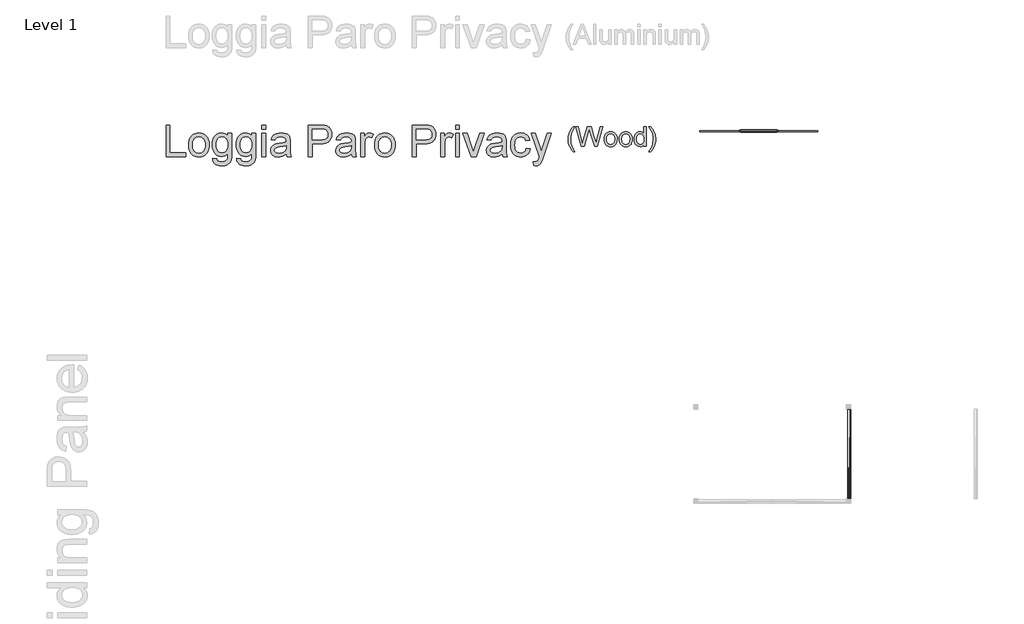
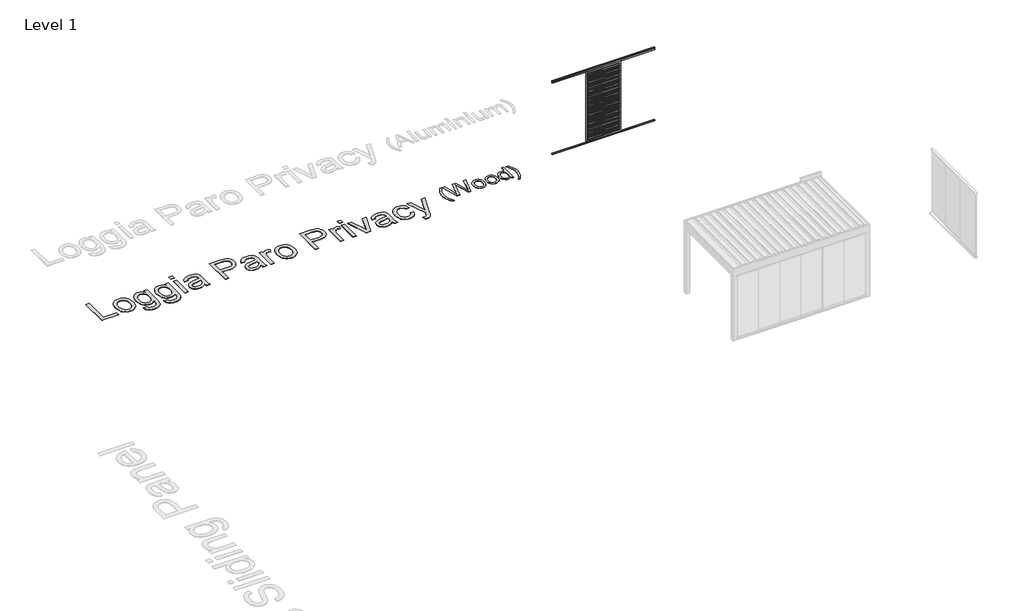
# One storey, part 9 of 47: 3 proxies, 1 wall.
"""IFC4 building model written with IfcOpenShell, lengths in millimetres."""

from ifc_helpers import new_model, si_unit, origin, origin_with_axes, place, context, project, spatial, polyline, outline, extrude, transform, mapped, element, save
from components import generic_models_19c23343, wall_bdcc315b

model = new_model("IFC4")

# Units and contexts
model_context = context("Model", 3, world=origin())
ifc_project = project(units=[si_unit("LENGTHUNIT", "METRE", prefix="MILLI")], contexts=[model_context])

# Site, building, storey
site = spatial("IfcSite", under=ifc_project)
building = spatial("IfcBuilding", under=site)
storey = spatial("IfcBuildingStorey", under=building, Name="Level 1", Elevation=0.0)

# Proxies
placement = place(None, origin())
generic_models_shape = generic_models_19c23343(model_context)
element("IfcBuildingElementProxy", 1, Name="Renson_Algarve_Loggia_Paro_Privacy_Wood : Renson_Algarve_Loggia_Paro_Privacy_Wood", ObjectType="Renson_Algarve_Loggia_Paro_Privacy_Wood : Renson_Algarve_Loggia_Paro_Privacy_Wood", at=placement, inside=storey, context=model_context, shape_type="MappedRepresentation", body=[
    mapped(generic_models_shape, transform((188018.5499001, -32029.7926735, 0.0), x_axis=(1.0, 0.0, 0.0), y_axis=(0.0, 1.0, 0.0), z_axis=(0.0, 0.0, 1.0))),
])
element("IfcBuildingElementProxy", 2, Name="500mm Arial", ObjectType="500mm Arial", at=placement, inside=storey, context=model_context, shape_type="SweptSolid", body=[
    extrude(outline(polyline([(183293.7226745, -32560.1479714), (183268.3771378, -32527.3528244), (183245.0702806, -32491.8752045), (183204.5726043, -32412.872546), (183188.6387154, -32370.3055335), (183177.2573662, -32326.9721002), (183170.4285566, -32282.872246), (183168.1522868, -32238.005971), (183169.853741, -32198.5736196), (183174.9581037, -32159.9843312), (183183.4653748, -32122.2381056), (183195.3755544, -32085.334943), (183213.4784143, -32043.0131851), (183235.9038876, -32000.7833978), (183262.6519743, -31958.6455809), (183293.7226745, -31916.5997345), (183340.8115699, -31916.5997345), (183282.073078, -32016.0505006), (183262.0235092, -32063.2620233), (183246.7564064, -32112.4355833), (183234.8922121, -32175.251434), (183230.9374806, -32238.373853), (183232.6542633, -32278.6224425), (183237.8046112, -32318.8633679), (183246.3885244, -32359.096629), (183258.4060029, -32399.3222259), (183292.7416558, -32479.7504271), (183340.8115699, -32560.1479714), (183293.7226745, -32560.1479714)])), origin_with_axes(), (0.0, 0.0, 1.0), 5.0),
    extrude(outline(polyline([(183501.3307471, -32418.8812853), (183364.3560175, -31916.5997345), (183429.1032487, -31916.5997345), (183508.5657597, -32246.7125115), (183533.091226, -32348.6158242), (183559.333475, -32258.4847354), (183658.9068684, -31916.5997345), (183752.2262678, -31916.5997345), (183824.5763935, -32164.429572), (183855.5704516, -32256.4000708), (183878.4097921, -32348.6158242), (183902.1994945, -32249.6555675), (183982.3977694, -31916.5997345), (184047.1450006, -31916.5997345), (183910.0476437, -32418.8812853), (183842.9704933, -32418.8812853), (183722.5504535, -32031.378917), (183705.7505091, -31977.3002637), (183686.8659, -32042.4153769), (183577.1144381, -32418.8812853), (183501.3307471, -32418.8812853)])), origin_with_axes(), (0.0, 0.0, 1.0), 5.0),
    extrude(outline(polyline([(184086.3857467, -32234.4497784), (184089.780991, -32186.6787685), (184099.9667237, -32145.514306), (184116.942945, -32110.9563911), (184140.7096547, -32083.0050237), (184164.6373128, -32065.1397543), (184191.0481744, -32052.3788476), (184219.9422394, -32044.7223036), (184251.3195079, -32042.1701222), (184285.957897, -32045.2779587), (184317.277684, -32054.601468), (184345.2788687, -32070.1406502), (184369.9614514, -32091.8955052), (184390.1068227, -32119.1302692), (184404.4963737, -32151.109178), (184413.1301042, -32187.8322318), (184416.0080144, -32229.2994304), (184410.9189802, -32292.7284178), (184404.5576873, -32318.7637331), (184395.6518774, -32341.0129296), (184384.3126813, -32360.2309318), (184370.6512301, -32377.1726641), (184354.6675238, -32391.8381265), (184336.3615625, -32404.2273191), (184295.6339599, -32421.1039057), (184251.3195079, -32426.7294345), (184216.1752811, -32423.6330944), (184184.5642542, -32414.344074), (184156.4864273, -32398.8623734), (184131.9418005, -32377.1879925), (184112.011027, -32349.6888134), (184097.7747602, -32316.732718), (184089.2330001, -32278.3197063), (184086.3857467, -32234.4497784)]), holes=[polyline([(184149.1709406, -32234.327151), (184150.9873579, -32264.7808825), (184156.43661, -32291.1495909), (184165.5186968, -32313.4332763), (184178.2336182, -32331.6319388), (184193.6999904, -32345.7685709), (184211.0364294, -32355.8661652), (184230.2429353, -32361.9247218), (184251.3195079, -32363.9442407), (184272.2887816, -32361.9132255), (184291.4186454, -32355.8201799), (184308.7090992, -32345.665104), (184324.160143, -32331.4479978), (184336.8750644, -32313.0692264), (184345.9571512, -32290.4291553), (184351.4064032, -32263.5277844), (184353.2228206, -32232.3651137), (184351.3949069, -32202.8770726), (184345.9111659, -32177.1981429), (184336.7715976, -32155.3283247), (184323.976202, -32137.267618), (184308.4676766, -32123.1309859), (184291.1887191, -32113.0333915), (184272.1393296, -32106.9748349), (184251.3195079, -32104.9553161), (184230.2429353, -32106.9671707), (184211.0364294, -32113.0027347), (184193.6999904, -32123.062008), (184178.2336182, -32137.1449906), (184165.5186968, -32155.2900036), (184156.43661, -32177.535368), (184150.9873579, -32203.8810838), (184149.1709406, -32234.327151)])]), origin_with_axes(), (0.0, 0.0, 1.0), 5.0),
    extrude(outline(polyline([(184470.945059, -32234.4497784), (184474.3403033, -32186.6787685), (184484.526036, -32145.514306), (184501.5022573, -32110.9563911), (184525.268967, -32083.0050237), (184549.1966251, -32065.1397543), (184575.6074867, -32052.3788476), (184604.5015517, -32044.7223036), (184635.8788202, -32042.1701222), (184670.5172093, -32045.2779587), (184701.8369963, -32054.601468), (184729.838181, -32070.1406502), (184754.5207637, -32091.8955052), (184774.666135, -32119.1302692), (184789.055686, -32151.109178), (184797.6894165, -32187.8322318), (184800.5673267, -32229.2994304), (184795.4782925, -32292.7284178), (184789.1169996, -32318.7637331), (184780.2111897, -32341.0129296), (184768.8719936, -32360.2309318), (184755.2105424, -32377.1726641), (184739.2268361, -32391.8381265), (184720.9208748, -32404.2273191), (184680.1932722, -32421.1039057), (184635.8788202, -32426.7294345), (184600.7345934, -32423.6330944), (184569.1235665, -32414.344074), (184541.0457396, -32398.8623734), (184516.5011128, -32377.1879925), (184496.5703393, -32349.6888134), (184482.3340725, -32316.732718), (184473.7923124, -32278.3197063), (184470.945059, -32234.4497784)]), holes=[polyline([(184533.7302529, -32234.327151), (184535.5466702, -32264.7808825), (184540.9959223, -32291.1495909), (184550.078009, -32313.4332763), (184562.7929305, -32331.6319388), (184578.2593027, -32345.7685709), (184595.5957417, -32355.8661652), (184614.8022476, -32361.9247218), (184635.8788202, -32363.9442407), (184656.8480939, -32361.9132255), (184675.9779577, -32355.8201799), (184693.2684115, -32345.665104), (184708.7194553, -32331.4479978), (184721.4343767, -32313.0692264), (184730.5164635, -32290.4291553), (184735.9657155, -32263.5277844), (184737.7821329, -32232.3651137), (184735.9542192, -32202.8770726), (184730.4704782, -32177.1981429), (184721.3309099, -32155.3283247), (184708.5355143, -32137.267618), (184693.0269889, -32123.1309859), (184675.7480314, -32113.0333915), (184656.6986419, -32106.9748349), (184635.8788202, -32104.9553161), (184614.8022476, -32106.9671707), (184595.5957417, -32113.0027347), (184578.2593027, -32123.062008), (184562.7929305, -32137.1449906), (184550.078009, -32155.2900036), (184540.9959223, -32177.535368), (184535.5466702, -32203.8810838), (184533.7302529, -32234.327151)])]), origin_with_axes(), (0.0, 0.0, 1.0), 5.0),
    extrude(outline(polyline([(185098.7969975, -32418.8812853), (185098.7969975, -32359.6522841), (185080.0120231, -32388.9985374), (185057.2569889, -32409.9601469), (185030.5318947, -32422.5371126), (184999.8367408, -32426.7294345), (184959.247094, -32420.6593816), (184922.0910125, -32402.4492228), (184890.6371019, -32373.3712168), (184867.1539678, -32334.6976221), (184852.5306585, -32287.9919371), (184847.6562221, -32234.8176604), (184852.1474481, -32182.3025056), (184865.6211262, -32134.876385), (184875.7225526, -32113.7461629), (184888.0619279, -32095.2371), (184902.639252, -32079.3491964), (184919.4545248, -32066.0824519), (184957.4230124, -32048.1482046), (184999.5914861, -32042.1701222), (185030.3096327, -32046.4467504), (185057.4715867, -32059.276635), (185080.4948682, -32078.9429933), (185098.7969975, -32103.7290428), (185098.7969975, -31916.5997345), (185161.5821913, -31916.5997345), (185161.5821913, -32418.8812853), (185098.7969975, -32418.8812853)]), holes=[polyline([(184910.4414159, -32234.5724057), (184912.211848, -32265.0184729), (184917.5231444, -32291.3641887), (184926.3753049, -32313.6095531), (184938.7683296, -32331.7545661), (184953.5679157, -32345.8375487), (184969.6397603, -32355.896822), (184986.9838636, -32361.932386), (185005.6002254, -32363.9442407), (185024.3047256, -32362.0243565), (185041.545362, -32356.264704), (185057.3221346, -32346.6652832), (185071.6350435, -32333.2260941), (185083.5183984, -32315.8398377), (185092.006509, -32294.3992152), (185097.0993754, -32268.9042265), (185098.7969975, -32239.3548716), (185097.0687185, -32206.9582634), (185091.8838816, -32179.1755086), (185083.2424869, -32156.0066071), (185071.1445342, -32137.451559), (185056.5173928, -32123.2344527), (185040.2884318, -32113.0793768), (185022.4576514, -32106.9863313), (185003.0250514, -32104.9553161), (184984.0408076, -32106.9058571), (184966.6967044, -32112.7574801), (184950.9927417, -32122.510185), (184936.9289196, -32136.163972), (184925.3406367, -32154.0177451), (184917.0632919, -32176.3704084), (184912.0968849, -32203.2219619), (184910.4414159, -32234.5724057)])]), origin_with_axes(), (0.0, 0.0, 1.0), 5.0),
    extrude(outline(polyline([(185271.4562805, -32560.1479714), (185224.3673852, -32560.1479714), (185272.4372992, -32479.7504271), (185306.7729521, -32399.3222259), (185318.7904306, -32359.096629), (185327.3743438, -32318.8633679), (185332.5246917, -32278.6224425), (185334.2414744, -32238.373853), (185330.2867429, -32175.7112865), (185318.4225486, -32113.5392293), (185303.4313573, -32064.2736988), (185283.4737591, -32017.0315192), (185224.3673852, -31916.5997345), (185271.4562805, -31916.5997345), (185302.5269807, -31958.6455809), (185329.2750675, -32000.7833978), (185351.7005407, -32043.0131851), (185369.8034006, -32085.334943), (185381.7135802, -32122.2381056), (185390.2208513, -32159.9843312), (185395.325214, -32198.5736196), (185397.0266682, -32238.005971), (185394.7389021, -32282.872246), (185387.8756036, -32326.9721002), (185376.4367728, -32370.3055335), (185360.4224097, -32412.872546), (185319.8787482, -32491.8752045), (185271.4562805, -32560.1479714)])), origin_with_axes(), (0.0, 0.0, 1.0), 5.0),
])
element("IfcBuildingElementProxy", 3, Name="800mm Arial", ObjectType="800mm Arial", at=placement, inside=storey, context=model_context, shape_type="SweptSolid", body=[
    extrude(outline(polyline([(172933.6081343, -32676.0972653), (172933.6081343, -31876.708567), (173033.5317216, -31876.708567), (173033.5317216, -32576.173678), (173433.2260708, -32576.173678), (173433.2260708, -32676.0972653), (172933.6081343, -32676.0972653)])), origin_with_axes(), (0.0, 0.0, 1.0), 5.0),
    extrude(outline(polyline([(173508.1687612, -32382.5717277), (173513.5723439, -32306.5434416), (173520.3268222, -32272.4722062), (173529.7830919, -32241.0295759), (173541.9411529, -32212.2155508), (173556.8010052, -32186.0301307), (173574.3626488, -32162.4733158), (173594.6260838, -32141.545106), (173632.7073142, -32113.112259), (173674.7406006, -32092.8030827), (173720.7259429, -32080.6175769), (173770.6633411, -32076.5557416), (173825.7908622, -32081.5019104), (173875.6367777, -32096.3404167), (173920.2010875, -32121.0712606), (173959.4837917, -32155.6944421), (173991.5454554, -32199.0389815), (174014.4466438, -32249.9338995), (174028.1873568, -32308.379196), (174032.7675945, -32374.3748709), (174030.7427757, -32427.8618009), (174024.6683194, -32475.3230653), (174014.5442254, -32516.7586642), (174000.3704939, -32552.1685975), (173982.3239916, -32582.7543391), (173960.581585, -32609.7173627), (173935.1432743, -32633.0576684), (173906.0090595, -32652.7752562), (173874.3133268, -32668.4432064), (173841.1904629, -32679.6345994), (173806.6404677, -32686.3494351), (173770.6633411, -32688.5877137), (173714.7307716, -32683.6598415), (173664.4213434, -32668.8762248), (173619.7350565, -32644.2368637), (173580.671911, -32609.7417581), (173548.951783, -32565.9763979), (173526.2945487, -32513.5262727), (173512.7002081, -32452.3913827), (173508.1687612, -32382.5717277)]), holes=[polyline([(173608.0923485, -32382.3765644), (173610.9832043, -32430.8441394), (173619.6557715, -32472.8103384), (173634.1100501, -32508.2751614), (173654.3460403, -32537.2386084), (173678.961006, -32559.7372725), (173706.5522114, -32575.8077469), (173737.1196564, -32585.4500316), (173770.6633411, -32588.6641265), (173804.036258, -32585.431735), (173834.481726, -32575.7345607), (173861.9997451, -32559.5726035), (173886.5903154, -32536.9458635), (173906.8263056, -32507.6957704), (173921.2805843, -32471.6637542), (173929.9531515, -32428.8498148), (173932.8440072, -32379.2539523), (173929.9348549, -32332.323288), (173921.2073981, -32291.4548823), (173906.6616366, -32256.6487353), (173886.2975706, -32227.9048469), (173861.6155175, -32205.4061828), (173834.1157949, -32189.3357084), (173803.7984028, -32179.6934238), (173770.6633411, -32176.4793289), (173737.1196564, -32179.681226), (173706.5522114, -32189.2869176), (173678.961006, -32205.2964035), (173654.3460403, -32227.7096837), (173634.1100501, -32256.5877468), (173619.6557715, -32291.9915813), (173610.9832043, -32333.9211871), (173608.0923485, -32382.3765644)])]), origin_with_axes(), (0.0, 0.0, 1.0), 5.0),
    extrude(outline(polyline([(174120.2007334, -32726.059059), (174220.1243207, -32738.5495074), (174224.3447261, -32755.3823383), (174231.1510447, -32769.7756284), (174240.5432764, -32781.7293779), (174252.5214213, -32791.2435866), (174271.9035722, -32800.977354), (174294.5303122, -32807.9300451), (174349.5175597, -32813.4921979), (174380.7192853, -32811.9186941), (174408.1641183, -32807.1981828), (174431.8520585, -32799.3306641), (174451.7831061, -32788.3161378), (174468.3719829, -32774.4595466), (174482.0334108, -32758.065833), (174492.7673899, -32739.1349972), (174500.5739202, -32717.667039), (174505.9897005, -32674.6823317), (174507.4046342, -32601.1545749), (174474.1536943, -32633.9420019), (174437.0482802, -32657.3615927), (174396.0883918, -32671.4133472), (174351.274029, -32676.0972653), (174296.4880436, -32670.6448919), (174248.252225, -32654.2877714), (174226.5906283, -32642.0199311), (174206.5665732, -32627.025904), (174171.4310882, -32588.8592897), (174143.5532368, -32543.0691107), (174123.6404858, -32492.9365492), (174111.6928352, -32438.4616052), (174107.710285, -32379.6442788), (174109.4972486, -32338.495326), (174114.8581393, -32298.9686677), (174123.7929571, -32261.064304), (174136.3017021, -32224.7822348), (174152.1953097, -32191.3300329), (174171.2847158, -32161.9152709), (174193.5699201, -32136.5379487), (174219.0509228, -32115.1980664), (174247.3191007, -32098.2920493), (174277.9658308, -32086.2163228), (174310.9911131, -32078.9708869), (174346.3949476, -32076.5557416), (174393.1243498, -32082.0203128), (174435.535765, -32098.4140263), (174473.6291931, -32125.7368822), (174507.4046342, -32163.9888805), (174507.4046342, -32089.04619), (174607.3282214, -32089.04619), (174607.3282214, -32595.8851669), (174605.620543, -32659.3925104), (174600.4975075, -32712.9099346), (174591.959115, -32756.4374396), (174580.0053655, -32789.9750255), (174564.3496131, -32817.023433), (174544.7052115, -32841.0834032), (174521.072161, -32862.1549361), (174493.4504613, -32880.2380316), (174462.1206598, -32894.7532988), (174427.3633036, -32905.1213468), (174389.1783927, -32911.3421756), (174347.5659271, -32913.4157852), (174298.610444, -32910.4944352), (174254.5950309, -32901.7303852), (174215.5196876, -32887.1236352), (174181.3844143, -32866.6741852), (174153.8115055, -32840.3576399), (174134.4232557, -32808.1496037), (174123.219665, -32770.0500768), (174120.2007334, -32726.059059)]), holes=[polyline([(174207.6338723, -32372.8135648), (174210.2990705, -32422.220363), (174218.2946652, -32464.4671091), (174231.6206563, -32499.5538033), (174250.2770438, -32527.4804456), (174272.9586735, -32548.7837348), (174298.3603911, -32564.0003699), (174326.4821966, -32573.130351), (174357.32409, -32576.173678), (174387.8610407, -32573.1486476), (174415.8486715, -32564.0735561), (174441.2869822, -32548.9484038), (174464.1759729, -32527.7731904), (174483.0885122, -32500.1209966), (174496.5974688, -32465.5649025), (174504.7028428, -32424.1049082), (174507.4046342, -32375.7410137), (174504.6235578, -32329.3958391), (174496.2803285, -32289.1129232), (174482.3749465, -32254.892266), (174462.9074117, -32226.7338674), (174439.524414, -32204.7475068), (174413.8726435, -32189.0429635), (174385.9521001, -32179.6202375), (174355.7627839, -32176.4793289), (174326.0796724, -32179.5714467), (174298.7019268, -32188.8478002), (174273.6295472, -32204.3083895), (174250.8625336, -32225.9532144), (174231.9499943, -32253.6846933), (174218.4410376, -32287.4052447), (174210.3356636, -32327.1148686), (174207.6338723, -32372.8135648)])]), origin_with_axes(), (0.0, 0.0, 1.0), 5.0),
    extrude(outline(polyline([(174732.2327056, -32726.059059), (174832.1562929, -32738.5495074), (174836.3766983, -32755.3823383), (174843.1830168, -32769.7756284), (174852.5752486, -32781.7293779), (174864.5533934, -32791.2435866), (174883.9355443, -32800.977354), (174906.5622844, -32807.9300451), (174961.5495319, -32813.4921979), (174992.7512575, -32811.9186941), (175020.1960904, -32807.1981828), (175043.8840307, -32799.3306641), (175063.8150782, -32788.3161378), (175080.403955, -32774.4595466), (175094.065383, -32758.065833), (175104.7993621, -32739.1349972), (175112.6058923, -32717.667039), (175118.0216727, -32674.6823317), (175119.4366063, -32601.1545749), (175086.1856665, -32633.9420019), (175049.0802524, -32657.3615927), (175008.1203639, -32671.4133472), (174963.3060012, -32676.0972653), (174908.5200158, -32670.6448919), (174860.2841972, -32654.2877714), (174838.6226004, -32642.0199311), (174818.5985454, -32627.025904), (174783.4630604, -32588.8592897), (174755.585209, -32543.0691107), (174735.672458, -32492.9365492), (174723.7248074, -32438.4616052), (174719.7422572, -32379.6442788), (174721.5292207, -32338.495326), (174726.8901114, -32298.9686677), (174735.8249293, -32261.064304), (174748.3336742, -32224.7822348), (174764.2272819, -32191.3300329), (174783.3166879, -32161.9152709), (174805.6018923, -32136.5379487), (174831.0828949, -32115.1980664), (174859.3510729, -32098.2920493), (174889.997803, -32086.2163228), (174923.0230853, -32078.9708869), (174958.4269198, -32076.5557416), (175005.156322, -32082.0203128), (175047.5677371, -32098.4140263), (175085.6611653, -32125.7368822), (175119.4366063, -32163.9888805), (175119.4366063, -32089.04619), (175219.3601936, -32089.04619), (175219.3601936, -32595.8851669), (175217.6525151, -32659.3925104), (175212.5294796, -32712.9099346), (175203.9910872, -32756.4374396), (175192.0373377, -32789.9750255), (175176.3815852, -32817.023433), (175156.7371837, -32841.0834032), (175133.1041331, -32862.1549361), (175105.4824335, -32880.2380316), (175074.152632, -32894.7532988), (175039.3952758, -32905.1213468), (175001.2103649, -32911.3421756), (174959.5978993, -32913.4157852), (174910.6424162, -32910.4944352), (174866.627003, -32901.7303852), (174827.5516598, -32887.1236352), (174793.4163865, -32866.6741852), (174765.8434776, -32840.3576399), (174746.4552279, -32808.1496037), (174735.2516372, -32770.0500768), (174732.2327056, -32726.059059)]), holes=[polyline([(174819.6658444, -32372.8135648), (174822.3310427, -32422.220363), (174830.3266373, -32464.4671091), (174843.6526284, -32499.5538033), (174862.309016, -32527.4804456), (174884.9906457, -32548.7837348), (174910.3923633, -32564.0003699), (174938.5141688, -32573.130351), (174969.3560621, -32576.173678), (174999.8930129, -32573.1486476), (175027.8806437, -32564.0735561), (175053.3189544, -32548.9484038), (175076.207945, -32527.7731904), (175095.1204843, -32500.1209966), (175108.629441, -32465.5649025), (175116.734815, -32424.1049082), (175119.4366063, -32375.7410137), (175116.6555299, -32329.3958391), (175108.3123007, -32289.1129232), (175094.4069187, -32254.892266), (175074.9393839, -32226.7338674), (175051.5563862, -32204.7475068), (175025.9046157, -32189.0429635), (174997.9840723, -32179.6202375), (174967.7947561, -32176.4793289), (174938.1116445, -32179.5714467), (174910.733899, -32188.8478002), (174885.6615194, -32204.3083895), (174862.8945057, -32225.9532144), (174843.9819664, -32253.6846933), (174830.4730098, -32287.4052447), (174822.3676358, -32327.1148686), (174819.6658444, -32372.8135648)])]), origin_with_axes(), (0.0, 0.0, 1.0), 5.0),
    extrude(outline(polyline([(175369.2455746, -32676.0972653), (175369.2455746, -32089.04619), (175469.1691618, -32089.04619), (175469.1691618, -32676.0972653), (175369.2455746, -32676.0972653)])), origin_with_axes(), (0.0, 0.0, 1.0), 5.0),
    extrude(outline(polyline([(175369.2455746, -31976.6321543), (175369.2455746, -31876.708567), (175469.1691618, -31876.708567), (175469.1691618, -31976.6321543), (175369.2455746, -31976.6321543)])), origin_with_axes(), (0.0, 0.0, 1.0), 5.0),
    extrude(outline(polyline([(175993.7679951, -32601.1545749), (175946.0261835, -32642.0900679), (175921.6246776, -32657.2518134), (175896.8694383, -32668.8762248), (175845.1755708, -32683.6598415), (175789.8223922, -32688.5877137), (175745.3312686, -32685.6236718), (175706.3169138, -32676.7315459), (175672.779328, -32661.9113361), (175644.718511, -32641.1630424), (175622.5613826, -32615.8040168), (175606.7348622, -32587.1516112), (175597.23895, -32555.2058257), (175594.073646, -32519.9666602), (175598.8551457, -32478.543259), (175613.1996451, -32440.9255413), (175635.3262793, -32408.723604), (175663.4541836, -32383.5475439), (175696.5099602, -32364.5191264), (175733.4202111, -32350.7601169), (175819.8775337, -32335.7325461), (175922.0454984, -32319.9243223), (175993.1825054, -32301.383813), (175993.7679951, -32279.1352018), (175992.0481189, -32254.9105625), (175986.8884903, -32234.5403977), (175978.2891094, -32218.0247071), (175966.249976, -32205.3634908), (175945.4406938, -32192.72667), (175920.0938658, -32183.7003694), (175890.2094922, -32178.284589), (175855.7875728, -32176.4793289), (175796.2627796, -32181.2852241), (175773.2335154, -32187.292593), (175754.693006, -32195.7029096), (175739.4580743, -32207.1748498), (175726.345543, -32222.3670895), (175715.3554121, -32241.2796289), (175706.4876817, -32263.9124678), (175606.5640944, -32251.4220193), (175623.9092288, -32196.7763075), (175635.7836932, -32173.8446249), (175649.7927557, -32153.8403911), (175666.5402026, -32136.361082), (175686.6298203, -32121.0041732), (175710.0616088, -32107.7696649), (175736.835568, -32096.657557), (175798.2388076, -32081.5811954), (175868.6683478, -32076.5557416), (175936.2192299, -32080.9957057), (175989.7671484, -32094.3155979), (176030.1415471, -32114.3442271), (176058.1718698, -32138.910402), (176076.7611699, -32169.2826838), (176088.812501, -32206.7296336), (176092.4718121, -32241.27353), (176093.6915824, -32294.1627725), (176093.6915824, -32418.4817668), (176094.9601436, -32526.7729788), (176098.7658271, -32592.0794834), (176106.2796125, -32634.9910044), (176118.6724793, -32676.0972653), (176018.748892, -32676.0972653), (176002.7455049, -32641.3582057), (175993.7679951, -32601.1545749)]), holes=[polyline([(175993.7679951, -32401.3074003), (175926.6318349, -32417.9450679), (175832.5631453, -32431.9480315), (175780.7229053, -32439.6081894), (175746.5937309, -32448.1465818), (175724.2231426, -32459.2220966), (175707.6586612, -32474.4936214), (175697.4125902, -32492.7901767), (175693.9972333, -32512.940783), (175695.857383, -32528.4684595), (175701.4378324, -32542.6543887), (175710.7385813, -32555.4985706), (175723.7596299, -32567.001005), (175740.3790009, -32576.4786206), (175760.4747175, -32583.2483461), (175811.0951871, -32588.6641265), (175864.7650826, -32582.6872517), (175889.2580713, -32575.2161583), (175912.1897539, -32564.7566275), (175950.6369155, -32538.3364017), (175977.3742816, -32506.890722), (175989.2304494, -32474.4936214), (175993.1825054, -32429.6060725), (175993.7679951, -32401.3074003)])]), origin_with_axes(), (0.0, 0.0, 1.0), 5.0),
    extrude(outline(polyline([(176555.8381737, -32676.0972653), (176555.8381737, -31876.708567), (176852.0959969, -31876.708567), (176921.0862081, -31878.6114087), (176971.5359099, -31884.319934), (177024.7910835, -31898.5424563), (177068.6296299, -31921.6936976), (177087.2372267, -31936.8798385), (177103.9297839, -31954.8226604), (177131.5697801, -31998.9783471), (177141.9866189, -32024.4166579), (177149.4272181, -32051.0625412), (177155.3796974, -32107.9770259), (177151.3605541, -32157.0483872), (177139.3031242, -32202.1920879), (177119.2074076, -32243.4081281), (177091.0734044, -32280.6965078), (177073.3791107, -32297.2548903), (177052.4493762, -32311.6054885), (177028.2842008, -32323.7483024), (177000.8835845, -32333.6833319), (176936.3760294, -32346.930038), (176858.9267109, -32351.3456066), (176655.761761, -32351.3456066), (176655.761761, -32676.0972653), (176555.8381737, -32676.0972653)]), holes=[polyline([(176655.761761, -32251.4220193), (176864.7816086, -32251.4220193), (176912.8405605, -32249.1288511), (176953.385727, -32242.2493463), (176986.4171082, -32230.783505), (177011.9347039, -32214.7313271), (177030.9753191, -32194.5197324), (177044.5757586, -32170.5756404), (177052.7360222, -32142.8990511), (177055.4561101, -32111.4899645), (177053.8521121, -32088.1679553), (177049.0401181, -32066.6024155), (177041.020128, -32046.793345), (177029.7921419, -32028.7407438), (177015.9538473, -32013.0301016), (177000.1029315, -32000.2469083), (176982.2393947, -31990.3911639), (176962.3632368, -31983.4628683), (176923.8184937, -31978.3398328), (176862.4396495, -31976.6321543), (176655.761761, -31976.6321543), (176655.761761, -32251.4220193)])]), origin_with_axes(), (0.0, 0.0, 1.0), 5.0),
    extrude(outline(polyline([(177654.9976339, -32601.1545749), (177607.2558223, -32642.0900679), (177582.8543164, -32657.2518134), (177558.0990771, -32668.8762248), (177506.4052095, -32683.6598415), (177451.0520309, -32688.5877137), (177406.5609073, -32685.6236718), (177367.5465526, -32676.7315459), (177334.0089667, -32661.9113361), (177305.9481498, -32641.1630424), (177283.7910213, -32615.8040168), (177267.964501, -32587.1516112), (177258.4685888, -32555.2058257), (177255.3032847, -32519.9666602), (177260.0847845, -32478.543259), (177274.4292838, -32440.9255413), (177296.555918, -32408.723604), (177324.6838224, -32383.5475439), (177357.7395989, -32364.5191264), (177394.6498498, -32350.7601169), (177481.1071724, -32335.7325461), (177583.2751371, -32319.9243223), (177654.4121441, -32301.383813), (177654.9976339, -32279.1352018), (177653.2777577, -32254.9105625), (177648.1181291, -32234.5403977), (177639.5187481, -32218.0247071), (177627.4796147, -32205.3634908), (177606.6703325, -32192.72667), (177581.3235046, -32183.7003694), (177551.4391309, -32178.284589), (177517.0172116, -32176.4793289), (177457.4924184, -32181.2852241), (177434.4631541, -32187.292593), (177415.9226448, -32195.7029096), (177400.687713, -32207.1748498), (177387.5751818, -32222.3670895), (177376.5850509, -32241.2796289), (177367.7173204, -32263.9124678), (177267.7937331, -32251.4220193), (177285.1388675, -32196.7763075), (177297.0133319, -32173.8446249), (177311.0223944, -32153.8403911), (177327.7698414, -32136.361082), (177347.8594591, -32121.0041732), (177371.2912475, -32107.7696649), (177398.0652068, -32096.657557), (177459.4684463, -32081.5811954), (177529.8979865, -32076.5557416), (177597.4488686, -32080.9957057), (177650.9967871, -32094.3155979), (177691.3711858, -32114.3442271), (177719.4015085, -32138.910402), (177737.9908087, -32169.2826838), (177750.0421398, -32206.7296336), (177753.7014508, -32241.27353), (177754.9212212, -32294.1627725), (177754.9212212, -32418.4817668), (177756.1897823, -32526.7729788), (177759.9954658, -32592.0794834), (177767.5092512, -32634.9910044), (177779.902118, -32676.0972653), (177679.9785307, -32676.0972653), (177663.9751437, -32641.3582057), (177654.9976339, -32601.1545749)]), holes=[polyline([(177654.9976339, -32401.3074003), (177587.8614737, -32417.9450679), (177493.7927841, -32431.9480315), (177441.9525441, -32439.6081894), (177407.8233696, -32448.1465818), (177385.4527813, -32459.2220966), (177368.8883, -32474.4936214), (177358.642229, -32492.7901767), (177355.226872, -32512.940783), (177357.0870218, -32528.4684595), (177362.6674712, -32542.6543887), (177371.9682201, -32555.4985706), (177384.9892686, -32567.001005), (177401.6086397, -32576.4786206), (177421.7043562, -32583.2483461), (177472.3248259, -32588.6641265), (177525.9947214, -32582.6872517), (177550.4877101, -32575.2161583), (177573.4193927, -32564.7566275), (177611.8665542, -32538.3364017), (177638.6039203, -32506.890722), (177650.4600882, -32474.4936214), (177654.4121441, -32429.6060725), (177654.9976339, -32401.3074003)])]), origin_with_axes(), (0.0, 0.0, 1.0), 5.0),
    extrude(outline(polyline([(177892.3161537, -32676.0972653), (177892.3161537, -32089.04619), (177979.7492926, -32089.04619), (177979.7492926, -32175.8938391), (178012.0488115, -32125.5417189), (178027.2471501, -32108.1233983), (178041.8112081, -32095.876904), (178071.6711864, -32081.3860322), (178104.2634502, -32076.5557416), (178129.0491837, -32078.4829787), (178154.0300806, -32084.2646902), (178179.2061407, -32093.900876), (178204.577364, -32107.3915361), (178171.2044471, -32196.9714708), (178136.075061, -32181.6023644), (178100.9456748, -32176.4793289), (178071.110092, -32181.4072011), (178044.4459121, -32196.1908178), (178022.9047677, -32219.7079902), (178008.4382913, -32250.8365296), (177996.2893786, -32306.6532209), (177992.239741, -32367.5441569), (177992.239741, -32676.0972653), (177892.3161537, -32676.0972653)])), origin_with_axes(), (0.0, 0.0, 1.0), 5.0),
    extrude(outline(polyline([(178242.0487092, -32382.5717277), (178247.4522919, -32306.5434416), (178254.2067702, -32272.4722062), (178263.6630399, -32241.0295759), (178275.8211009, -32212.2155508), (178290.6809532, -32186.0301307), (178308.2425968, -32162.4733158), (178328.5060318, -32141.545106), (178366.5872622, -32113.112259), (178408.6205486, -32092.8030827), (178454.6058909, -32080.6175769), (178504.5432891, -32076.5557416), (178559.6708102, -32081.5019104), (178609.5167257, -32096.3404167), (178654.0810355, -32121.0712606), (178693.3637397, -32155.6944421), (178725.4254034, -32199.0389815), (178748.3265918, -32249.9338995), (178762.0673048, -32308.379196), (178766.6475425, -32374.3748709), (178764.6227237, -32427.8618009), (178758.5482674, -32475.3230653), (178748.4241734, -32516.7586642), (178734.2504419, -32552.1685975), (178716.2039396, -32582.7543391), (178694.461533, -32609.7173627), (178669.0232223, -32633.0576684), (178639.8890075, -32652.7752562), (178608.1932748, -32668.4432064), (178575.0704109, -32679.6345994), (178540.5204157, -32686.3494351), (178504.5432891, -32688.5877137), (178448.6107196, -32683.6598415), (178398.3012914, -32668.8762248), (178353.6150045, -32644.2368637), (178314.551859, -32609.7417581), (178282.831731, -32565.9763979), (178260.1744967, -32513.5262727), (178246.5801561, -32452.3913827), (178242.0487092, -32382.5717277)]), holes=[polyline([(178341.9722965, -32382.3765644), (178344.8631523, -32430.8441394), (178353.5357195, -32472.8103384), (178367.9899981, -32508.2751614), (178388.2259883, -32537.2386084), (178412.840954, -32559.7372725), (178440.4321594, -32575.8077469), (178470.9996044, -32585.4500316), (178504.5432891, -32588.6641265), (178537.916206, -32585.431735), (178568.361674, -32575.7345607), (178595.8796931, -32559.5726035), (178620.4702634, -32536.9458635), (178640.7062536, -32507.6957704), (178655.1605323, -32471.6637542), (178663.8330995, -32428.8498148), (178666.7239552, -32379.2539523), (178663.8148029, -32332.323288), (178655.0873461, -32291.4548823), (178640.5415846, -32256.6487353), (178620.1775186, -32227.9048469), (178595.4954655, -32205.4061828), (178567.9957429, -32189.3357084), (178537.6783508, -32179.6934238), (178504.5432891, -32176.4793289), (178470.9996044, -32179.681226), (178440.4321594, -32189.2869176), (178412.840954, -32205.2964035), (178388.2259883, -32227.7096837), (178367.9899981, -32256.5877468), (178353.5357195, -32291.9915813), (178344.8631523, -32333.9211871), (178341.9722965, -32382.3765644)])]), origin_with_axes(), (0.0, 0.0, 1.0), 5.0),
    extrude(outline(polyline([(179203.8132369, -32676.0972653), (179203.8132369, -31876.708567), (179500.0710602, -31876.708567), (179569.0612713, -31878.6114087), (179619.5109731, -31884.319934), (179672.7661467, -31898.5424563), (179716.6046932, -31921.6936976), (179735.2122899, -31936.8798385), (179751.9048472, -31954.8226604), (179779.5448434, -31998.9783471), (179789.9616822, -32024.4166579), (179797.4022814, -32051.0625412), (179803.3547607, -32107.9770259), (179799.3356174, -32157.0483872), (179787.2781874, -32202.1920879), (179767.1824709, -32243.4081281), (179739.0484677, -32280.6965078), (179721.354174, -32297.2548903), (179700.4244395, -32311.6054885), (179676.2592641, -32323.7483024), (179648.8586478, -32333.6833319), (179584.3510927, -32346.930038), (179506.9017742, -32351.3456066), (179303.7368242, -32351.3456066), (179303.7368242, -32676.0972653), (179203.8132369, -32676.0972653)]), holes=[polyline([(179303.7368242, -32251.4220193), (179512.7566718, -32251.4220193), (179560.8156237, -32249.1288511), (179601.3607903, -32242.2493463), (179634.3921714, -32230.783505), (179659.9097672, -32214.7313271), (179678.9503824, -32194.5197324), (179692.5508218, -32170.5756404), (179700.7110855, -32142.8990511), (179703.4311734, -32111.4899645), (179701.8271754, -32088.1679553), (179697.0151813, -32066.6024155), (179688.9951913, -32046.793345), (179677.7672052, -32028.7407438), (179663.9289105, -32013.0301016), (179648.0779948, -32000.2469083), (179630.214458, -31990.3911639), (179610.3383001, -31983.4628683), (179571.7935569, -31978.3398328), (179510.4147128, -31976.6321543), (179303.7368242, -31976.6321543), (179303.7368242, -32251.4220193)])]), origin_with_axes(), (0.0, 0.0, 1.0), 5.0),
    extrude(outline(polyline([(179928.2592448, -32676.0972653), (179928.2592448, -32089.04619), (180015.6923837, -32089.04619), (180015.6923837, -32175.8938391), (180047.9919026, -32125.5417189), (180063.1902412, -32108.1233983), (180077.7542992, -32095.876904), (180107.6142774, -32081.3860322), (180140.2065413, -32076.5557416), (180164.9922748, -32078.4829787), (180189.9731717, -32084.2646902), (180215.1492317, -32093.900876), (180240.5204551, -32107.3915361), (180207.1475382, -32196.9714708), (180172.0181521, -32181.6023644), (180136.8887659, -32176.4793289), (180107.0531831, -32181.4072011), (180080.3890032, -32196.1908178), (180058.8478587, -32219.7079902), (180044.3813824, -32250.8365296), (180032.2324697, -32306.6532209), (180028.1828321, -32367.5441569), (180028.1828321, -32676.0972653), (179928.2592448, -32676.0972653)])), origin_with_axes(), (0.0, 0.0, 1.0), 5.0),
    extrude(outline(polyline([(180302.9726971, -31976.6321543), (180302.9726971, -31876.708567), (180402.8962844, -31876.708567), (180402.8962844, -31976.6321543), (180302.9726971, -31976.6321543)])), origin_with_axes(), (0.0, 0.0, 1.0), 5.0),
    extrude(outline(polyline([(180302.9726971, -32676.0972653), (180302.9726971, -32089.04619), (180402.8962844, -32089.04619), (180402.8962844, -32676.0972653), (180302.9726971, -32676.0972653)])), origin_with_axes(), (0.0, 0.0, 1.0), 5.0),
    extrude(outline(polyline([(180696.8121486, -32676.0972653), (180490.3294233, -32089.04619), (180596.1079083, -32089.04619), (180721.2075557, -32440.7303781), (180758.8740642, -32558.9993115), (180795.7599196, -32447.3659288), (180921.64022, -32089.04619), (181027.418705, -32089.04619), (180823.473102, -32676.0972653), (180696.8121486, -32676.0972653)])), origin_with_axes(), (0.0, 0.0, 1.0), 5.0),
    extrude(outline(polyline([(181489.5652962, -32601.1545749), (181441.8234846, -32642.0900679), (181417.4219787, -32657.2518134), (181392.6667394, -32668.8762248), (181340.9728719, -32683.6598415), (181285.6196933, -32688.5877137), (181241.1285697, -32685.6236718), (181202.1142149, -32676.7315459), (181168.5766291, -32661.9113361), (181140.5158121, -32641.1630424), (181118.3586837, -32615.8040168), (181102.5321633, -32587.1516112), (181093.0362511, -32555.2058257), (181089.8709471, -32519.9666602), (181094.6524468, -32478.543259), (181108.9969462, -32440.9255413), (181131.1235804, -32408.723604), (181159.2514847, -32383.5475439), (181192.3072613, -32364.5191264), (181229.2175122, -32350.7601169), (181315.6748348, -32335.7325461), (181417.8427995, -32319.9243223), (181488.9798065, -32301.383813), (181489.5652962, -32279.1352018), (181487.84542, -32254.9105625), (181482.6857914, -32234.5403977), (181474.0864105, -32218.0247071), (181462.0472771, -32205.3634908), (181441.2379949, -32192.72667), (181415.8911669, -32183.7003694), (181386.0067933, -32178.284589), (181351.5848739, -32176.4793289), (181292.0600807, -32181.2852241), (181269.0308165, -32187.292593), (181250.4903071, -32195.7029096), (181235.2553754, -32207.1748498), (181222.1428441, -32222.3670895), (181211.1527132, -32241.2796289), (181202.2849828, -32263.9124678), (181102.3613955, -32251.4220193), (181119.7065299, -32196.7763075), (181131.5809943, -32173.8446249), (181145.5900568, -32153.8403911), (181162.3375037, -32136.361082), (181182.4271214, -32121.0041732), (181205.8589099, -32107.7696649), (181232.6328691, -32096.657557), (181294.0361087, -32081.5811954), (181364.4656489, -32076.5557416), (181432.016531, -32080.9957057), (181485.5644495, -32094.3155979), (181525.9388482, -32114.3442271), (181553.9691709, -32138.910402), (181572.558471, -32169.2826838), (181584.6098021, -32206.7296336), (181588.2691132, -32241.27353), (181589.4888835, -32294.1627725), (181589.4888835, -32418.4817668), (181590.7574447, -32526.7729788), (181594.5631282, -32592.0794834), (181602.0769136, -32634.9910044), (181614.4697804, -32676.0972653), (181514.5461931, -32676.0972653), (181498.542806, -32641.3582057), (181489.5652962, -32601.1545749)]), holes=[polyline([(181489.5652962, -32401.3074003), (181422.429136, -32417.9450679), (181328.3604464, -32431.9480315), (181276.5202064, -32439.6081894), (181242.391032, -32448.1465818), (181220.0204437, -32459.2220966), (181203.4559623, -32474.4936214), (181193.2098913, -32492.7901767), (181189.7945344, -32512.940783), (181191.6546841, -32528.4684595), (181197.2351335, -32542.6543887), (181206.5358825, -32555.4985706), (181219.556931, -32567.001005), (181236.176302, -32576.4786206), (181256.2720186, -32583.2483461), (181306.8924882, -32588.6641265), (181360.5623837, -32582.6872517), (181385.0553724, -32575.2161583), (181407.987055, -32564.7566275), (181446.4342166, -32538.3364017), (181473.1715827, -32506.890722), (181485.0277505, -32474.4936214), (181488.9798065, -32429.6060725), (181489.5652962, -32401.3074003)])]), origin_with_axes(), (0.0, 0.0, 1.0), 5.0),
    extrude(outline(polyline([(182101.5972684, -32463.7596423), (182201.5208557, -32476.2500907), (182190.6527019, -32523.4003137), (182173.6613008, -32565.1225586), (182150.5466527, -32601.4168255), (182121.3087573, -32632.2831143), (182087.1795828, -32656.9163765), (182049.3910973, -32674.5115639), (182007.9433007, -32685.0686763), (181962.8361931, -32688.5877137), (181906.7938442, -32683.6781381), (181856.5454045, -32668.9494111), (181812.090874, -32644.4015327), (181773.4302527, -32610.034503), (181742.1370443, -32566.4948003), (181719.7847526, -32514.4289028), (181706.3733776, -32453.8368105), (181701.9029192, -32384.7185235), (181703.8118598, -32338.7758731), (181709.5386816, -32295.7972648), (181719.0833847, -32255.7826984), (181732.4459689, -32218.7321739), (181749.7179171, -32185.3897513), (181770.990712, -32156.4994905), (181796.2643537, -32132.0613915), (181825.5388422, -32112.0754542), (181857.4907266, -32096.53558), (181890.7965561, -32085.4356697), (181925.4563306, -32078.7757236), (181961.4700503, -32076.5557416), (182005.8026038, -32079.6051675), (182045.9025541, -32088.7534451), (182081.7699013, -32104.0005745), (182113.4046454, -32125.3465557), (182140.2700874, -32152.3034805), (182161.8295284, -32184.3834408), (182178.0829684, -32221.5864365), (182189.0304073, -32263.9124678), (182089.10682, -32276.4029162), (182081.3063886, -32253.0626105), (182070.9810326, -32232.8083238), (182058.1307519, -32215.640056), (182042.7555466, -32201.5578073), (182025.2457432, -32190.585973), (182005.9916682, -32182.7489485), (181984.9933215, -32178.0467338), (181962.2507033, -32176.4793289), (181928.2983955, -32179.5653479), (181897.6760608, -32188.8234048), (181870.3836992, -32204.2534998), (181846.4213106, -32225.8556327), (181826.9110838, -32254.1299095), (181812.9752076, -32289.576436), (181804.6136818, -32332.1952121), (181801.8265065, -32381.9862379), (181804.5526933, -32432.5274225), (181812.7312535, -32475.6402056), (181826.3621872, -32511.3245872), (181845.4454943, -32539.5805675), (181868.9321725, -32561.0546245), (181895.7732191, -32576.3932367), (181925.9686342, -32585.596404), (181959.5184177, -32588.6641265), (181986.5546276, -32586.749087), (182011.2610761, -32581.0039686), (182033.6377632, -32571.4287714), (182053.684689, -32558.0234952), (182070.840759, -32540.6417677), (182084.5448789, -32519.1372163), (182094.7970487, -32493.5098412), (182101.5972684, -32463.7596423)])), origin_with_axes(), (0.0, 0.0, 1.0), 5.0),
    extrude(outline(polyline([(182288.9539946, -32900.9253367), (182276.4635462, -32804.7098513), (182303.6888204, -32811.2966112), (182327.2059928, -32813.4921979), (182353.8945682, -32810.7355169), (182374.6306642, -32802.4654739), (182390.7804236, -32789.2675587), (182403.7099894, -32771.727261), (182431.0328453, -32698.1507133), (182438.8393755, -32673.9504695), (182226.5017525, -32089.04619), (182331.889911, -32089.04619), (182444.49911, -32414.9688282), (182483.7269245, -32545.3378835), (182522.954739, -32430.1915622), (182638.6865501, -32089.04619), (182743.2940556, -32089.04619), (182538.9581261, -32690.1490198), (182508.6102397, -32770.0683733), (182485.8737203, -32820.5180751), (182458.6972369, -32862.1366395), (182427.9102332, -32890.9720107), (182410.8212505, -32900.791162), (182392.1465664, -32907.8048415), (182350.0400938, -32913.4157852), (182321.1071411, -32910.2931731), (182288.9539946, -32900.9253367)])), origin_with_axes(), (0.0, 0.0, 1.0), 5.0),
])

# Wall
wall_shape = wall_bdcc315b(model_context)
element("IfcWall", 4, ObjectType="Renson_Algarve_Glass_Sliding_Panel : Renson_Algarve_Glass_Sliding_Panel", at=placement, inside=storey, context=model_context, shape_type="MappedRepresentation", body=[
    mapped(wall_shape, transform((190362.4238385, -39857.1209465, 0.0), x_axis=(0.0, 1.0, 0.0), y_axis=(-1.0, 0.0, 0.0), z_axis=(0.0, 0.0, 1.0))),
])

save(model, "model.ifc")
